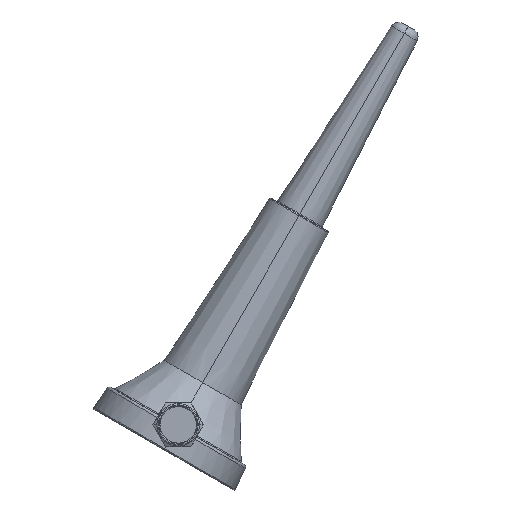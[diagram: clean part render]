
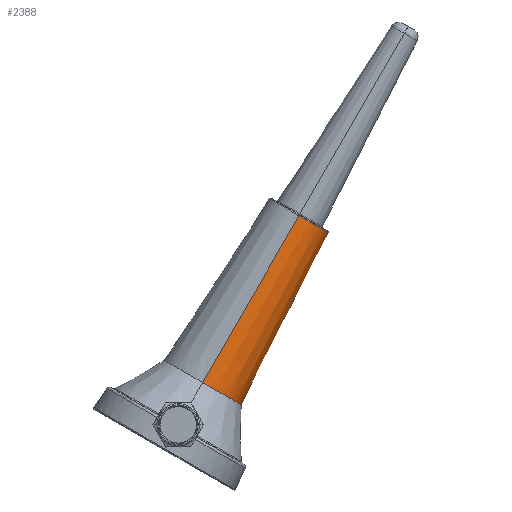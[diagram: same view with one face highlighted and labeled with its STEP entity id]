
A CAD part, left-side view. The second image highlights one B-rep face of the part: STEP entity #2388.
In plain terms, the highlighted conical face has half-angle 3.092 degrees and reference radius 7.097 mm.
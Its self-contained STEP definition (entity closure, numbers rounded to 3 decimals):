
#1873=CARTESIAN_POINT('',(129.747,-4.411,7.637));
#1874=DIRECTION('',(0.,0.5,-0.866));
#1875=DIRECTION('',(1.,0.,0.));
#1876=AXIS2_PLACEMENT_3D('',#1873,#1874,#1875);
#1882=CARTESIAN_POINT('',(129.747,-21.822,37.787));
#1883=DIRECTION('',(0.,0.5,-0.866));
#1884=DIRECTION('',(1.,0.,0.));
#1885=AXIS2_PLACEMENT_3D('',#1882,#1883,#1884);
#1887=DIRECTION('',(0.054,0.499,-0.865));
#1888=VECTOR('',#1887,34.867);
#1889=CARTESIAN_POINT('',(135.904,-21.822,37.787));
#1890=LINE('',#1889,#1888);
#1891=DIRECTION('',(-0.054,0.499,-0.865));
#1892=VECTOR('',#1891,34.867);
#1893=CARTESIAN_POINT('',(123.59,-21.822,37.787));
#1894=LINE('',#1893,#1892);
#2078=CARTESIAN_POINT('',(137.784,-4.411,7.637));
#2080=VERTEX_POINT('',#2078);
#2086=CARTESIAN_POINT('',(121.71,-4.411,7.637));
#2087=VERTEX_POINT('',#2086);
#2116=CARTESIAN_POINT('',(135.904,-21.822,37.787));
#2117=CARTESIAN_POINT('',(123.59,-21.822,37.787));
#2118=VERTEX_POINT('',#2116);
#2119=VERTEX_POINT('',#2117);
#2374=CARTESIAN_POINT('',(129.747,-13.116,22.712));
#2375=DIRECTION('',(0.,0.5,-0.866));
#2376=DIRECTION('',(1.,0.,0.));
#2377=AXIS2_PLACEMENT_3D('',#2374,#2375,#2376);
#2378=CONICAL_SURFACE('',#2377,7.097,3.092);
#2380=ORIENTED_EDGE('',*,*,#2379,.F.);
#2382=ORIENTED_EDGE('',*,*,#2381,.T.);
#2383=ORIENTED_EDGE('',*,*,#2367,.T.);
#2385=ORIENTED_EDGE('',*,*,#2384,.F.);
#2386=EDGE_LOOP('',(#2380,#2382,#2383,#2385));
#2387=FACE_OUTER_BOUND('',#2386,.F.);
#2388=ADVANCED_FACE('',(#2387),#2378,.T.);
#1877=CIRCLE('',#1876,8.037);
#1886=CIRCLE('',#1885,6.157);
#2367=EDGE_CURVE('',#2080,#2087,#1877,.T.);
#2379=EDGE_CURVE('',#2118,#2119,#1886,.T.);
#2381=EDGE_CURVE('',#2118,#2080,#1890,.T.);
#2384=EDGE_CURVE('',#2119,#2087,#1894,.T.);
